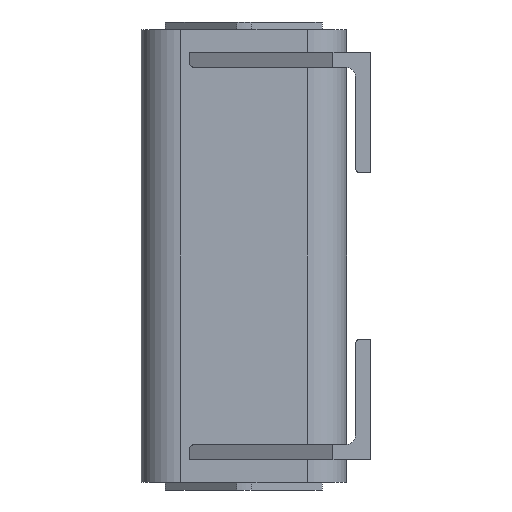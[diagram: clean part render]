
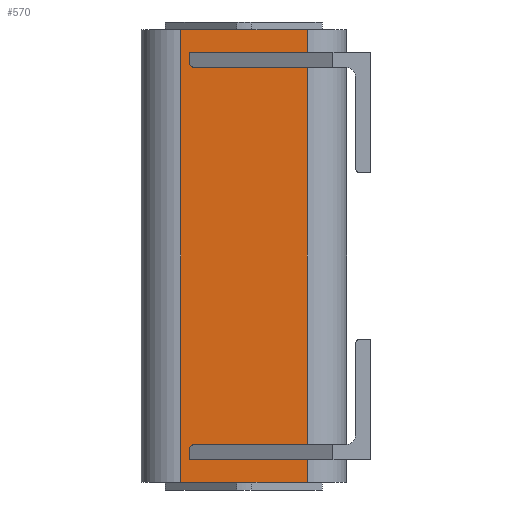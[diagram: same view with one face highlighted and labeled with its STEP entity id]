
A CAD part, left-side view. The second image highlights one B-rep face of the part: STEP entity #570.
In plain terms, the highlighted planar face has unit normal (-1, 0, 0).
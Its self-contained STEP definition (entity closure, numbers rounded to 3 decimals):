
#512=CARTESIAN_POINT('',(-68.,-42.,300.0));
#513=VERTEX_POINT('',#512);
#521=CARTESIAN_POINT('',(-68.,-42.,0.0));
#522=VERTEX_POINT('',#521);
#523=CARTESIAN_POINT('',(-68.,-42.,0.0));
#524=DIRECTION('',(0.0,0.0,1.0));
#525=VECTOR('',#524,300.0);
#526=LINE('',#523,#525);
#527=EDGE_CURVE('',#522,#513,#526,.T.);
#540=CARTESIAN_POINT('',(-68.,-42.,0.0));
#541=DIRECTION('',(-1.0,0.0,0.0));
#542=DIRECTION('',(0.0,0.0,1.0));
#543=AXIS2_PLACEMENT_3D('',#540,#541,#542);
#544=PLANE('',#543);
#545=CARTESIAN_POINT('',(-68.,42.,300.0));
#546=VERTEX_POINT('',#545);
#547=CARTESIAN_POINT('',(-68.,-42.,300.0));
#548=DIRECTION('',(0.0,1.0,0.0));
#549=VECTOR('',#548,84.);
#550=LINE('',#547,#549);
#551=EDGE_CURVE('',#513,#546,#550,.T.);
#552=ORIENTED_EDGE('',*,*,#551,.T.);
#553=CARTESIAN_POINT('',(-68.,42.,0.0));
#554=VERTEX_POINT('',#553);
#555=CARTESIAN_POINT('',(-68.,42.,0.0));
#556=DIRECTION('',(0.0,0.0,1.0));
#557=VECTOR('',#556,300.0);
#558=LINE('',#555,#557);
#559=EDGE_CURVE('',#554,#546,#558,.T.);
#560=ORIENTED_EDGE('',*,*,#559,.F.);
#561=CARTESIAN_POINT('',(-68.,42.,0.0));
#562=DIRECTION('',(0.0,-1.0,0.0));
#563=VECTOR('',#562,84.);
#564=LINE('',#561,#563);
#565=EDGE_CURVE('',#554,#522,#564,.T.);
#566=ORIENTED_EDGE('',*,*,#565,.T.);
#567=ORIENTED_EDGE('',*,*,#527,.T.);
#568=EDGE_LOOP('',(#552,#560,#566,#567));
#569=FACE_OUTER_BOUND('',#568,.T.);
#570=ADVANCED_FACE('',(#569),#544,.T.);
